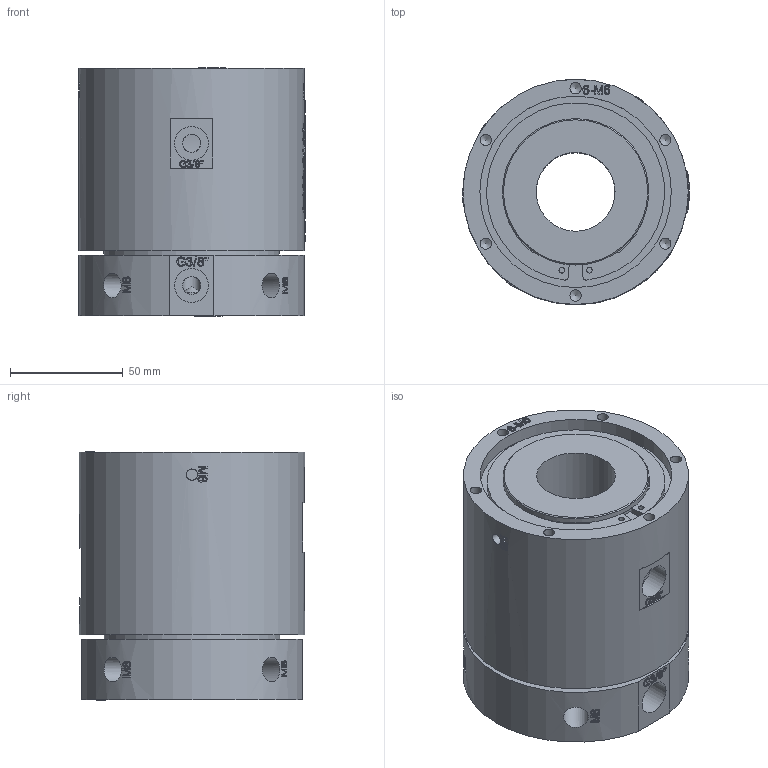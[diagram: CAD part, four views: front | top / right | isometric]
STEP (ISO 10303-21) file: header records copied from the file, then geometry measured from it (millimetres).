
FILE_DESCRIPTION(/* description */ (''),/* implementation_level */ '2;1');
FILE_NAME(/* name */ 'HQ0203D35.stp',/* time_stamp */ '2025-09-04T18:43:30+08:00',/* author */ (''),/* organization */ (''),/* preprocessor_version */ 'ST-DEVELOPER v16.7',/* originating_system */ 'SIEMENS PLM Software NX 12.0',/* authorisation */ '');
FILE_SCHEMA (('AUTOMOTIVE_DESIGN { 1 0 10303 214 3 1 1 1 }'));
Products named in the file (1): Admi8ABC6E172244
Bounding box: 100.63 x 100 x 110.4 mm (x, y, z)
Volume: 716994.1 mm3; surface area: 81008.4 mm2
Topology: 1 solids, 1 shells, 1321 faces, 3610 edges, 2410 vertices
Faces by surface type: extrusion 686, plane 470, cylinder 80, bspline 70, cone 15
Full cylindrical faces by diameter (mm): 2.5 x2, 5 x12, 6.8 x4, 8 x6, 8.4 x2, 8.5 x2, 11 x4, 15 x4, 35 x1, 62.5 x1, 65 x1, 78 x1, 85 x1, 100 x1
Entity records: 62280 total; most frequent: CARTESIAN_POINT 34502, ORIENTED_EDGE 6986, EDGE_CURVE 3493, B_SPLINE_CURVE_WITH_KNOTS 3362, DIRECTION 2931, VERTEX_POINT 2375, EDGE_LOOP 1520, ADVANCED_FACE 1319
